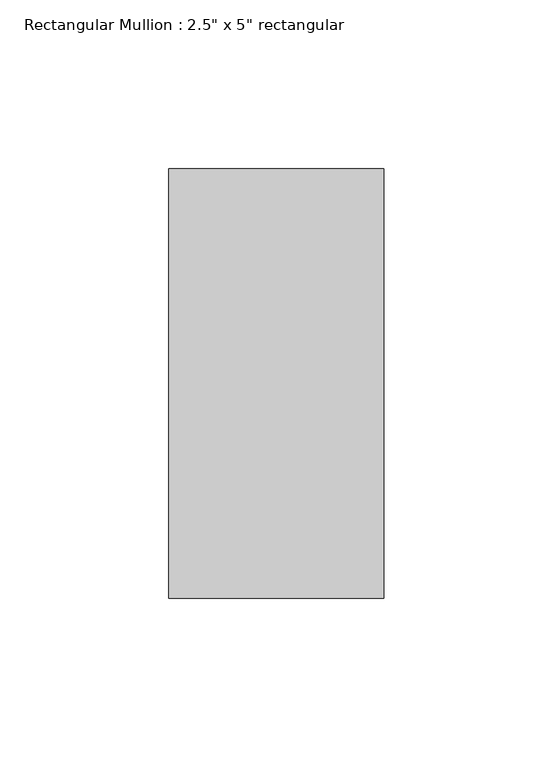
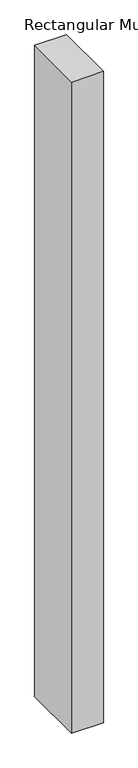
"""IFC4 building model written with IfcOpenShell, lengths in millimetres: member geometry."""

from ifc_helpers import new_model, si_unit, frame, origin, place, context, project, spatial, polyline, outline, extrude, source, transform, mapped, element, save


def member_c6627131(model_context):
    return source(origin(), model_context, "Body", "SweptSolid", [
        extrude(outline(polyline([(0.0, 63.5), (0.0, -63.5), (-63.5, -63.5), (-63.5, 63.5), (0.0, 63.5)])), frame((0.0, 0.0, -1371.6), z_axis=(0.0, 0.0, 1.0), x_axis=(1.0, 0.0, 0.0)), (0.0, 0.0, 1.0), 1371.6),
    ])


if __name__ == "__main__":
    model = new_model("IFC4")
    model_context = context("Model", 3, world=origin())
    ifc_project = project(units=[si_unit("LENGTHUNIT", "METRE", prefix="MILLI")], contexts=[model_context])
    site = spatial("IfcSite", under=ifc_project)
    building = spatial("IfcBuilding", under=site)
    placement = place(None, origin())
    member_shape = member_c6627131(model_context)
    element("IfcMember", 1, ObjectType="Rectangular Mullion : 2.5\" x 5\" rectangular", at=placement, inside=building, context=model_context, shape_type="MappedRepresentation", body=[
        mapped(member_shape, transform((0.0, 0.0, 0.0), x_axis=(1.0, 0.0, 0.0), y_axis=(0.0, 1.0, 0.0), z_axis=(0.0, 0.0, 1.0))),
    ])
    save(model, "model.ifc")
